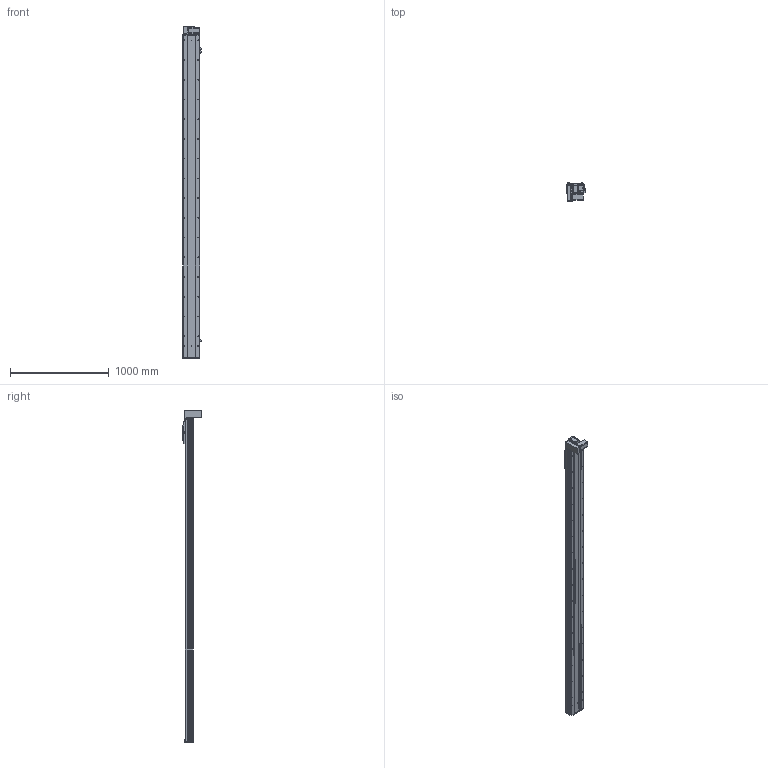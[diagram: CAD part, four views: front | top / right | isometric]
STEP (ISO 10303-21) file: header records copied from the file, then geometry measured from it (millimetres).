
FILE_DESCRIPTION (( 'STEP AP203' ), '1' );
FILE_NAME ('Y170CB-D105-S2950-BM-P400W.STEP', '2020-02-20T07:53:29', ( '微软用户' ), ( '微软中国' ), 'SwSTEP 2.0', 'SolidWorks 2017', '' );
FILE_SCHEMA (( 'CONFIG_CONTROL_DESIGN' ));
Length unit declared in the file: millimetre
Products named in the file (18): 70CB-掛极-; 70CB-詩湍--; --70CB --喘謫眊楊擘啣-; Y100-135俋离換覜ん--; 70CB-耜裔啣-; Y170CB-陔俋离換覜結え---; Y1埴倛裔; 17B-耜蚾蟀諉啣----; 70C--詩湍揤踡え-; 00B-俋欶BM--163; B-源倛裔啣; 70CB--耜裔; 70B喘謫眊----; 0B-萇儂楊擘啣; 70C-雄赽釱-奻-; Y170CB-D105-S2950-BM-P400W; san松下电机400不带刹车----; 0C--雄赽釱俋欶-170
Assembly tree (21 placements, depth 2):
  Y170CB-D105-S2950-BM-P400W
    B-源倛裔啣
    0B-萇儂楊擘啣
    san松下电机400不带刹车----
    70CB-掛极-
    --70CB --喘謫眊楊擘啣-
    70CB-耜裔啣-  x2
    70C--詩湍揤踡え-  x2
    70CB--耜裔
    70C-雄赽釱-奻-
    0C--雄赽釱俋欶-170
    70CB-詩湍--
    Y100-135俋离換覜ん--  x3
    Y170CB-陔俋离換覜結え---
    Y1埴倛裔
    17B-耜蚾蟀諉啣----
    00B-俋欶BM--163
    70B喘謫眊----
Bounding box: 183.5 x 184 x 3366 mm (x, y, z)
Volume: 14217050.4 mm3; surface area: 5139450.1 mm2
Topology: 21 solids, 21 shells, 1087 faces, 2933 edges, 1946 vertices
Faces by surface type: cylinder 601, plane 462, cone 24
Entity records: 34956 total; most frequent: CARTESIAN_POINT 6456, DIRECTION 5690, ORIENTED_EDGE 5348, EDGE_CURVE 2674, AXIS2_PLACEMENT_3D 2108, VERTEX_POINT 1776, LINE 1474, VECTOR 1474
